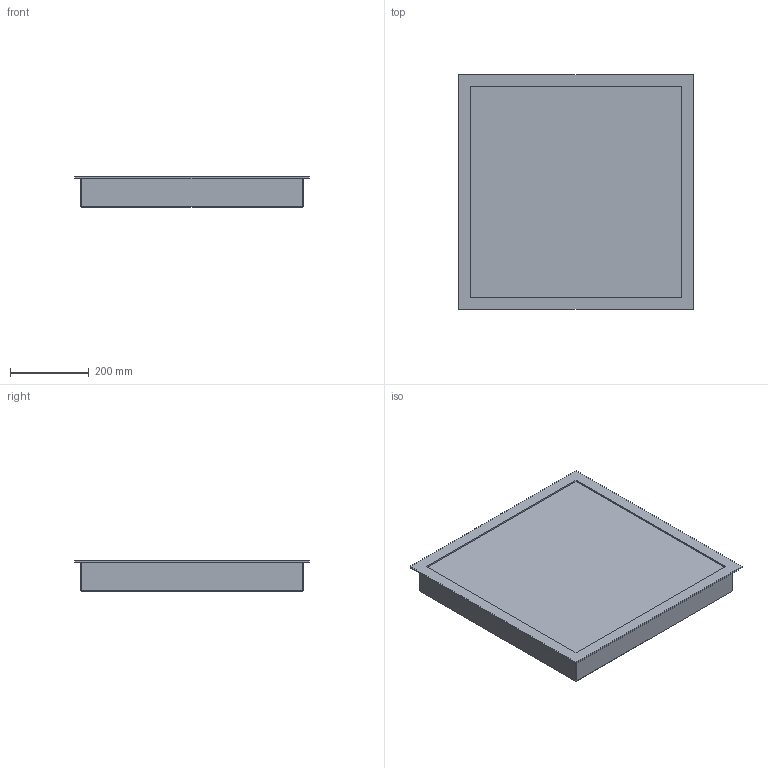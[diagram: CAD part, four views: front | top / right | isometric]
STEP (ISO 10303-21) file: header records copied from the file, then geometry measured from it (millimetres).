
FILE_DESCRIPTION(/* description */ (''),/* implementation_level */ '2;1');
FILE_NAME(/* name */ 'CONTROPLUS_GDO_CP0.stp',/* time_stamp */ '2025-09-26T16:37:14+02:00',/* author */ ('gian.noche'),/* organization */ (''),/* preprocessor_version */ 'ST-DEVELOPER v19.2',/* originating_system */ 'Autodesk Inventor 2023',/* authorisation */ '');
FILE_SCHEMA (('AUTOMOTIVE_DESIGN { 1 0 10303 214 3 1 1 }'));
Length unit declared in the file: millimetre
Products named in the file (1): CORPO_595x595
Bounding box: 595 x 595 x 77 mm (x, y, z)
Volume: 23404870.3 mm3; surface area: 887547.5 mm2
Topology: 1 solids, 1 shells, 28 faces, 60 edges, 36 vertices
Faces by surface type: plane 28
Entity records: 781 total; most frequent: CARTESIAN_POINT 125, ORIENTED_EDGE 120, DIRECTION 118, LINE 60, VECTOR 60, EDGE_CURVE 60, VERTEX_POINT 36, EDGE_LOOP 30
